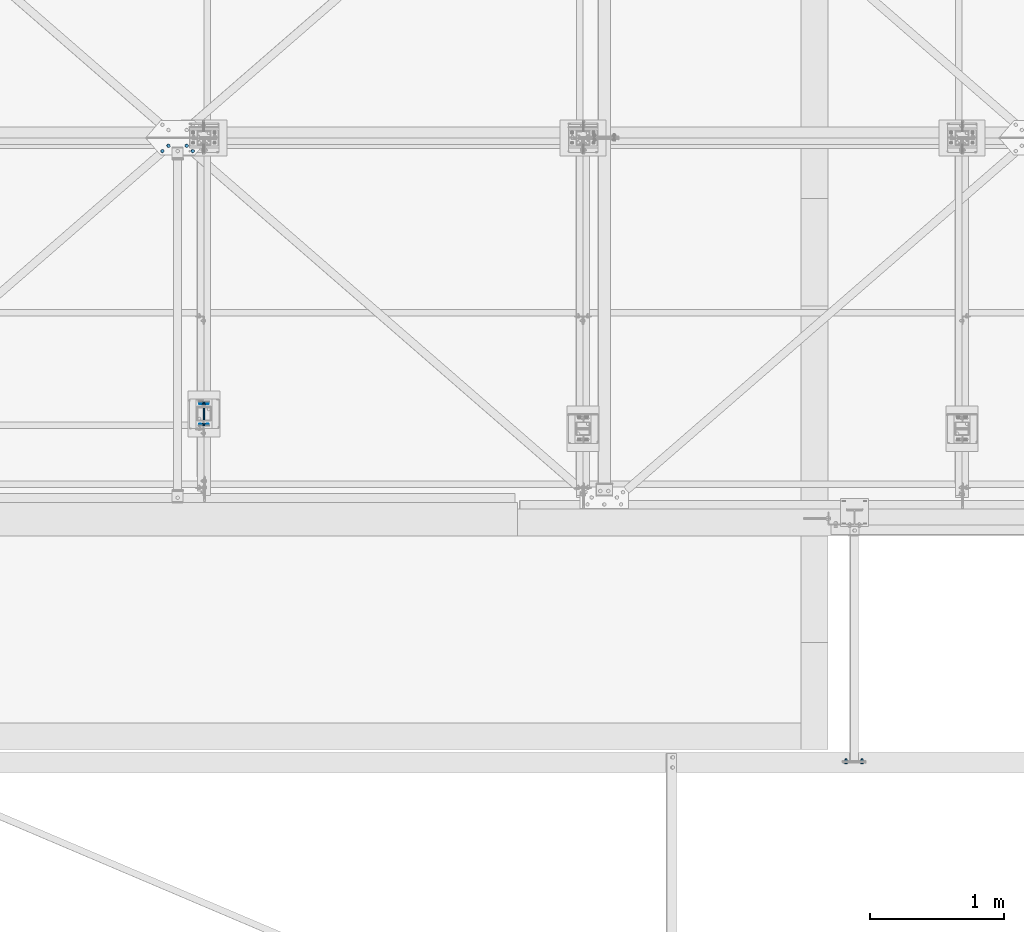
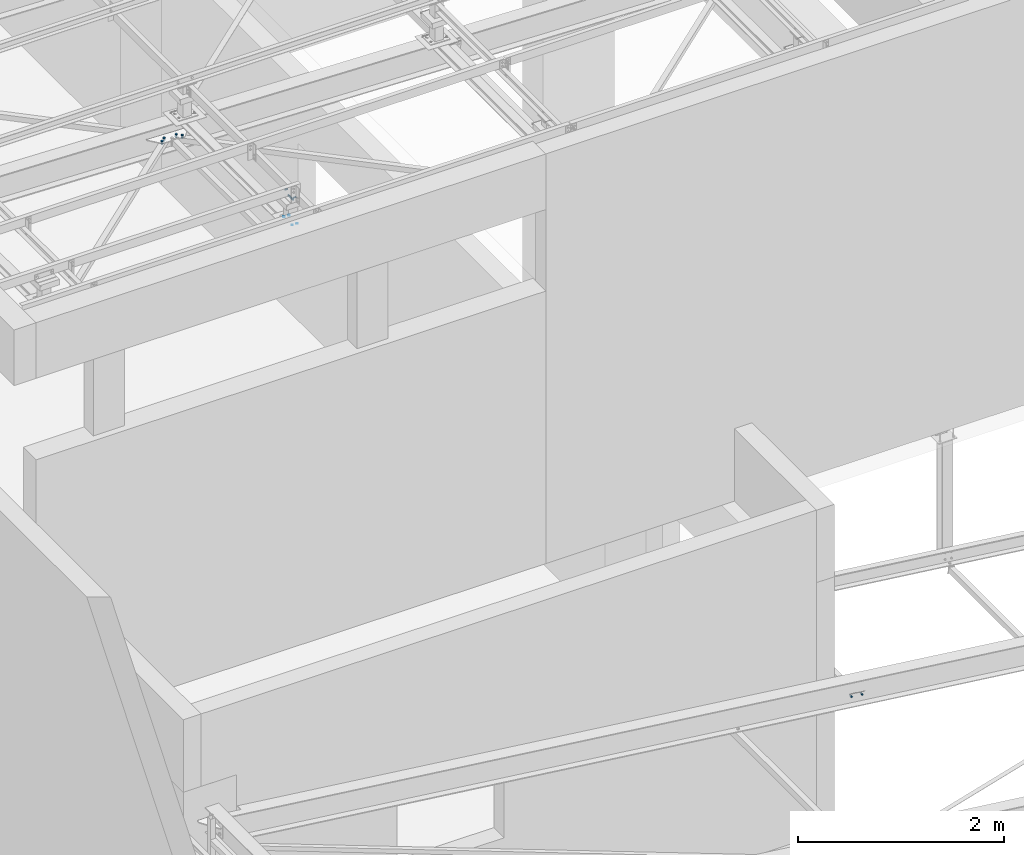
# One storey, part 224 of 3134: 6 mechanical fasteners, 5 elements without a shape of their own.
"""IFC2X3 building model written with IfcOpenShell, lengths in millimetres."""

import ifcopenshell
import ifcopenshell.guid

model = None  # the IFC model being written
_history = None  # IfcOwnerHistory: only IFC2X3 demands one
_inside = {}  # id of a spatial element -> (the spatial element, [elements in it])
_under = {}  # id of a project, library or spatial element -> (it, [spatial elements below it])
_declared = {}  # id of a project -> (the project, [libraries it declares])
_typed = {}  # id of a type object -> (the type object, [elements of that type])
_made_of = {}  # id of a material, layer set ... -> (it, [elements and type objects made of it])


def new_model(schema):
    """Start an empty IFC model of exactly this schema.

    Asked for "IFC4X3", IfcOpenShell would pick the latest addendum, in which some entities
    have other attributes; the version numbers below select the first issue.
    IFC2X3 requires an IfcOwnerHistory on every rooted entity: one is made here for all.
    """
    global model, _history
    if schema == "IFC4X3":
        model = ifcopenshell.file(schema_version=(4, 3, 0, 0))
    else:
        model = ifcopenshell.file(schema=schema)
    _inside.clear()
    _under.clear()
    _declared.clear()
    _typed.clear()
    _made_of.clear()
    _history = None
    if model.schema == "IFC2X3":
        org = make("IfcOrganization", Name="unknown")
        user = make(
            "IfcPersonAndOrganization",
            ThePerson=make("IfcPerson", FamilyName="unknown"),
            TheOrganization=org,
        )
        app = make(
            "IfcApplication",
            ApplicationDeveloper=org,
            Version="unknown",
            ApplicationFullName="unknown",
            ApplicationIdentifier="unknown",
        )
        _history = make(
            "IfcOwnerHistory",
            OwningUser=user,
            OwningApplication=app,
            ChangeAction="ADDED",
            CreationDate=0,
        )
    return model


def make(cls, **values):
    """One entity of the class cls with the attributes given. An attribute that is None is left unset."""
    return model.create_entity(
        cls, **{name: value for name, value in values.items() if value is not None}
    )


def rooted(cls, **values):
    """An entity with a GlobalId (a new one), such as an element, a storey or a relation."""
    return make(cls, GlobalId=ifcopenshell.guid.new(), OwnerHistory=_history, **values)


def si_unit(unit_type, name, prefix=None):
    """IfcSIUnit, for example si_unit("LENGTHUNIT", "METRE", prefix="MILLI")."""
    return make("IfcSIUnit", UnitType=unit_type, Prefix=prefix, Name=name)


def assignment(units):
    """IfcUnitAssignment: the units of a project."""
    return None if units is None else make("IfcUnitAssignment", Units=units)


def point(xyz):
    """IfcCartesianPoint."""
    return None if xyz is None else make("IfcCartesianPoint", Coordinates=xyz)


def direction(xyz):
    """IfcDirection."""
    return None if xyz is None else make("IfcDirection", DirectionRatios=xyz)


def frame(location, z_axis=None, x_axis=None):
    """IfcAxis2Placement3D, a coordinate frame: its origin and axes. An axis left out is left unset."""
    return make(
        "IfcAxis2Placement3D",
        Location=point(location),
        Axis=direction(z_axis),
        RefDirection=direction(x_axis),
    )


def origin_with_axes():
    """The frame at (0, 0, 0) with the z axis (0, 0, 1) and the x axis (1, 0, 0) written out."""
    return frame((0.0, 0.0, 0.0), z_axis=(0.0, 0.0, 1.0), x_axis=(1.0, 0.0, 0.0))


def place(relative_to, where):
    """IfcLocalPlacement: puts the frame where relative to a parent placement (None: the world)."""
    return make(
        "IfcLocalPlacement", PlacementRelTo=relative_to, RelativePlacement=where
    )


def context(
    kind, dimensions, precision=None, world=None, true_north=None, identifier=None
):
    """IfcGeometricRepresentationContext, for example the 3D "Model" context."""
    return make(
        "IfcGeometricRepresentationContext",
        ContextIdentifier=identifier,
        ContextType=kind,
        CoordinateSpaceDimension=dimensions,
        Precision=precision,
        WorldCoordinateSystem=world,
        TrueNorth=true_north,
    )


def subcontext(parent, identifier, kind, view, scale=None):
    """IfcGeometricRepresentationSubContext, for example "Body" below "Model"."""
    return make(
        "IfcGeometricRepresentationSubContext",
        ContextIdentifier=identifier,
        ContextType=kind,
        ParentContext=parent,
        TargetScale=scale,
        TargetView=view,
    )


def project(units=None, contexts=None):
    """IfcProject with its units and contexts."""
    return rooted(
        "IfcProject",
        Name="project",
        RepresentationContexts=contexts,
        UnitsInContext=assignment(units),
    )


def spatial(cls, under=None, at=None, **own):
    """A site, building, storey or space (cls), placed at a placement, below another one or the project."""
    s = rooted(cls, ObjectPlacement=at, **own)
    if under is not None:
        _under.setdefault(under.id(), (under, []))[1].append(s)
    return s


def faces_of(points, faces, orient=None, outer=None):
    """IfcFace entities. A face is a list of loops; a loop is a list of indices into points, from 0.

    orient and outer hold one flag for each loop. By default every Orientation is true, the
    first loop of a face is its IfcFaceOuterBound and the others are IfcFaceBound.
    """
    made = []
    for i, loops in enumerate(faces):
        bounds = []
        for j, loop in enumerate(loops):
            is_outer = j == 0 if outer is None else outer[i][j]
            bounds.append(
                make(
                    "IfcFaceOuterBound" if is_outer else "IfcFaceBound",
                    Bound=make("IfcPolyLoop", Polygon=[points[k] for k in loop]),
                    Orientation=True if orient is None else orient[i][j],
                )
            )
        made.append(make("IfcFace", Bounds=bounds))
    return made


def faceted_brep(points, faces, orient=None, outer=None, voids=None):
    """IfcFacetedBrep: a solid bounded by flat faces; with voids (closed shells), ...WithVoids."""
    shared = [point(p) for p in points]
    hull = make("IfcClosedShell", CfsFaces=faces_of(shared, faces, orient, outer))
    if voids is None:
        return make("IfcFacetedBrep", Outer=hull)
    return make(
        "IfcFacetedBrepWithVoids",
        Outer=hull,
        Voids=[
            make(cls, CfsFaces=faces_of(shared, fs, o, b)) for cls, fs, o, b in voids
        ],
    )


def shape(context_of_items, identifier, shape_type, items):
    """IfcShapeRepresentation: the items that make up one representation, for example the "Body"."""
    return make(
        "IfcShapeRepresentation",
        ContextOfItems=context_of_items,
        RepresentationIdentifier=identifier,
        RepresentationType=shape_type,
        Items=items,
    )


def source(mapping_origin, context_of_items, identifier, shape_type, items):
    """IfcRepresentationMap: a shape defined once, which mapped items show again and again."""
    return make(
        "IfcRepresentationMap",
        MappingOrigin=mapping_origin,
        MappedRepresentation=shape(context_of_items, identifier, shape_type, items),
    )


def transform(
    local_origin,
    x_axis=None,
    y_axis=None,
    z_axis=None,
    scale=None,
    scale2=None,
    scale3=None,
    uniform=True,
):
    """IfcCartesianTransformationOperator3D, or its non-uniform kind. x_axis, y_axis, z_axis: its Axis1, 2, 3."""
    if uniform:
        return make(
            "IfcCartesianTransformationOperator3D",
            Axis1=direction(x_axis),
            Axis2=direction(y_axis),
            LocalOrigin=point(local_origin),
            Scale=scale,
            Axis3=direction(z_axis),
        )
    return make(
        "IfcCartesianTransformationOperator3DnonUniform",
        Axis1=direction(x_axis),
        Axis2=direction(y_axis),
        LocalOrigin=point(local_origin),
        Scale=scale,
        Axis3=direction(z_axis),
        Scale2=scale2,
        Scale3=scale3,
    )


def mapped(mapping_source, mapping_target):
    """IfcMappedItem: shows the shape of a source again, moved by a transform."""
    return make(
        "IfcMappedItem", MappingSource=mapping_source, MappingTarget=mapping_target
    )


def material(Name=None, Category=None):
    """IfcMaterial."""
    return make("IfcMaterial", Name=Name, Category=Category)


def made_of(thing, what):
    """Note that an element or type object is made of a material, layer set ...; save() writes the relation."""
    if what is not None:
        _made_of.setdefault(what.id(), (what, []))[1].append(thing)
    return thing


def type_object(cls, material=None, **own):
    """A type object (cls), such as IfcWallType, which elements share."""
    return made_of(rooted(cls, **own), material)


def element(
    cls,
    number,
    at=None,
    inside=None,
    cuts=None,
    type_object=None,
    material=None,
    context=None,
    identifier="Body",
    shape_type=None,
    held_by="IfcProductDefinitionShape",
    body=None,
    shapes=None,
    **own,
):
    """One element of the class cls, such as IfcWall. Its Tag is "e" and its number.

    at: its placement. inside: the storey or other place that contains it. cuts: it is an
    opening in that element (IfcRelVoidsElement). A single representation is given by context,
    identifier, shape_type and body (its items); several are given by shapes. held_by: the class
    of the entity that holds the representations. save() writes the other relations.
    """
    e = rooted(cls, Tag="e%d" % number, ObjectPlacement=at, **own)
    if body is not None:
        shapes = [shape(context, identifier, shape_type, body)]
    if shapes is not None:
        e.Representation = make(held_by, Representations=shapes)
    if inside is not None:
        _inside.setdefault(inside.id(), (inside, []))[1].append(e)
    if cuts is not None:
        rooted(
            "IfcRelVoidsElement", RelatingBuildingElement=cuts, RelatedOpeningElement=e
        )
    if type_object is not None:
        _typed.setdefault(type_object.id(), (type_object, []))[1].append(e)
    return made_of(e, material)


def aggregate(whole, parts):
    """IfcRelAggregates: a whole, such as a stair, and the parts it consists of."""
    return rooted("IfcRelAggregates", RelatingObject=whole, RelatedObjects=parts)


def save(model, path):
    """Write the relations noted so far, then the file.

    IfcRelAggregates (storeys below a building ...), IfcRelContainedInSpatialStructure (elements
    in a storey), IfcRelDefinesByType, IfcRelAssociatesMaterial and IfcRelDeclares: one each for
    every whole, place, type object, material and project.
    """
    for whole, parts in _under.values():
        aggregate(whole, parts)
    for where, things in _inside.values():
        rooted(
            "IfcRelContainedInSpatialStructure",
            RelatedElements=things,
            RelatingStructure=where,
        )
    for kind, things in _typed.values():
        rooted("IfcRelDefinesByType", RelatedObjects=things, RelatingType=kind)
    for what, things in _made_of.values():
        rooted("IfcRelAssociatesMaterial", RelatedObjects=things, RelatingMaterial=what)
    for by, libraries in _declared.values():
        rooted("IfcRelDeclares", RelatingContext=by, RelatedDefinitions=libraries)
    model.write(path)


model = new_model("IFC2X3")

# Units and contexts
model_context = context("Model", 3, precision=1e-05, world=origin_with_axes())
body_context = subcontext(model_context, "Body", "Model", "MODEL_VIEW")
ifc_project = project(units=[si_unit("LENGTHUNIT", "METRE", prefix="MILLI"), si_unit("AREAUNIT", "SQUARE_METRE"), si_unit("VOLUMEUNIT", "CUBIC_METRE"), si_unit("MASSUNIT", "GRAM", prefix="KILO"), si_unit("TIMEUNIT", "SECOND"), si_unit("PLANEANGLEUNIT", "RADIAN"), si_unit("SOLIDANGLEUNIT", "STERADIAN"), si_unit("THERMODYNAMICTEMPERATUREUNIT", "DEGREE_CELSIUS"), si_unit("LUMINOUSINTENSITYUNIT", "LUMEN")], contexts=[model_context])

# Site, building, storey
site_placement = place(None, origin_with_axes())
site = spatial("IfcSite", under=ifc_project, at=site_placement, CompositionType="ELEMENT")
building_placement = place(site_placement, origin_with_axes())
building = spatial("IfcBuilding", under=site, at=building_placement, Name="Undefined", CompositionType="ELEMENT")
storey_placement = place(building_placement, origin_with_axes())
storey = spatial("IfcBuildingStorey", under=building, at=storey_placement, Name="Undefined", CompositionType="ELEMENT", Elevation=0.0)

# Assembly, mechanical fastener
assembly_1_placement = place(storey_placement, origin_with_axes())
assembly_1 = element("IfcElementAssembly", 1, at=assembly_1_placement, inside=storey, AssemblyPlace="NOTDEFINED", PredefinedType="RIGID_FRAME")
ifc_material = material(Name="8.8")
mechanical_fastener_type = type_object("IfcMechanicalFastenerType", Name="Bolt assembly")
shared_shape_1 = source(origin_with_axes(), body_context, "Body", "Brep", [
    faceted_brep([(10.9696551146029, -14.0999999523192, 0.0), (5.48482755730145, -14.0999999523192, 9.5), (-5.48482755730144, -14.0999999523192, 9.5), (-10.9696551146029, -14.0999999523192, 1.34339530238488e-15), (-5.48482755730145, -14.0999999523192, -9.5), (5.48482755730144, -14.0999999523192, -9.50000000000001), (5.48482755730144, -6.09999995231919, -9.50000000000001), (-5.48482755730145, -6.09999995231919, -9.5), (-10.9696551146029, -6.09999995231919, 1.34339530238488e-15), (-5.48482755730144, -6.09999995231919, 9.5), (5.48482755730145, -6.09999995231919, 9.5), (10.9696551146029, -6.09999995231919, 0.0), (6.0, -6.09999995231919, 0.0), (5.19615242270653, -6.09999995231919, 3.00000000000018), (2.99999999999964, -6.09999995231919, 5.19615242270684), (-6.21801588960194e-13, -6.09999995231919, 6.0), (-3.00000000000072, -6.09999995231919, 5.19615242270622), (-5.19615242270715, -6.09999995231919, 2.9999999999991), (-6.0, -6.09999995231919, -1.24360317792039e-12), (-5.19615242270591, -6.09999995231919, -3.00000000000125), (-2.99999999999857, -6.09999995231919, -5.19615242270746), (1.85874342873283e-12, -6.09999995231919, -6.0), (3.00000000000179, -6.09999995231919, -5.1961524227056), (5.19615242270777, -6.09999995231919, -2.99999999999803), (5.19615242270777, 23.9000000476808, -2.99999999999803), (3.00000000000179, 23.9000000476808, -5.1961524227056), (1.85874342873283e-12, 23.9000000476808, -6.0), (-2.99999999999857, 23.9000000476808, -5.19615242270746), (-5.19615242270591, 23.9000000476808, -3.00000000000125), (-6.0, 23.9000000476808, -1.24360317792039e-12), (-5.19615242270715, 23.9000000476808, 2.9999999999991), (-3.00000000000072, 23.9000000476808, 5.19615242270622), (-6.21801588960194e-13, 23.9000000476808, 6.0), (2.99999999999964, 23.9000000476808, 5.19615242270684), (5.19615242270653, 23.9000000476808, 3.00000000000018), (6.0, 23.9000000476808, 0.0), (10.9696551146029, 8.0, 0.0), (5.48482755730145, 8.0, 9.5), (-5.48482755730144, 8.0, 9.5), (-10.9696551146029, 8.0, 1.34339530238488e-15), (-5.48482755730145, 8.0, -9.5), (5.48482755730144, 8.0, -9.50000000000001), (5.48482755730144, 18.0, -9.50000000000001), (-5.48482755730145, 18.0, -9.5), (-10.9696551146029, 18.0, 1.34339530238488e-15), (-5.48482755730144, 18.0, 9.5), (5.48482755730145, 18.0, 9.5), (10.9696551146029, 18.0, 0.0)], [[[0, 1, 2, 3, 4, 5]], [[6, 7, 8, 9, 10, 11]], [[0, 11, 10, 1]], [[1, 10, 9, 2]], [[2, 9, 8, 3]], [[3, 8, 7, 4]], [[4, 7, 6, 5]], [[5, 6, 11, 0]], [[12, 13, 14, 15, 16, 17, 18, 19, 20, 21, 22, 23]], [[24, 25, 26, 27, 28, 29, 30, 31, 32, 33, 34, 35]], [[12, 35, 34, 13]], [[13, 34, 33, 14]], [[14, 33, 32, 15]], [[15, 32, 31, 16]], [[16, 31, 30, 17]], [[17, 30, 29, 18]], [[18, 29, 28, 19]], [[19, 28, 27, 20]], [[20, 27, 26, 21]], [[21, 26, 25, 22]], [[22, 25, 24, 23]], [[23, 24, 35, 12]], [[36, 37, 38, 39, 40, 41]], [[42, 43, 44, 45, 46, 47]], [[36, 47, 46, 37]], [[37, 46, 45, 38]], [[38, 45, 44, 39]], [[39, 44, 43, 40]], [[40, 43, 42, 41]], [[41, 42, 47, 36]]]),
    faceted_brep([(7.0, -6.0, 0.0), (6.06217782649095, -6.0, 3.50000000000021), (3.49999999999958, -6.0, 6.06217782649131), (-7.25435187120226e-13, -6.0, 7.0), (-3.50000000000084, -6.0, 6.06217782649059), (-6.06217782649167, -6.0, 3.49999999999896), (-7.0, -6.0, -1.45087037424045e-12), (-6.06217782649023, -6.0, -3.50000000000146), (-3.49999999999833, -6.0, -6.06217782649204), (2.1685340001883e-12, -6.0, -7.0), (3.50000000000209, -6.0, -6.06217782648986), (6.0621778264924, -6.0, -3.4999999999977), (6.0621778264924, 0.0999999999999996, -3.4999999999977), (3.50000000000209, 0.0999999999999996, -6.06217782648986), (2.1685340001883e-12, 0.0999999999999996, -7.0), (-3.49999999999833, 0.0999999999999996, -6.06217782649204), (-6.06217782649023, 0.0999999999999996, -3.50000000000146), (-7.0, 0.0999999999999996, -1.45087037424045e-12), (-6.06217782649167, 0.0999999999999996, 3.49999999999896), (-3.50000000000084, 0.0999999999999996, 6.06217782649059), (-7.25435187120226e-13, 0.0999999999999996, 7.0), (3.49999999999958, 0.0999999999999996, 6.06217782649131), (6.06217782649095, 0.0999999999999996, 3.50000000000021), (7.0, 0.0999999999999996, 0.0), (7.0, -0.1, 0.0), (6.06217782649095, -0.1, 3.50000000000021), (3.49999999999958, -0.1, 6.06217782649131), (-7.25435187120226e-13, -0.1, 7.0), (-3.50000000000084, -0.1, 6.06217782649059), (-6.06217782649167, -0.1, 3.49999999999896), (-7.0, -0.1, -1.45087037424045e-12), (-6.06217782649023, -0.1, -3.50000000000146), (-3.49999999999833, -0.1, -6.06217782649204), (2.1685340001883e-12, -0.1, -7.0), (3.50000000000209, -0.1, -6.06217782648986), (6.0621778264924, -0.1, -3.4999999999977), (6.0621778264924, 8.0000000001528, -3.4999999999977), (3.50000000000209, 8.0000000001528, -6.06217782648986), (2.1685340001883e-12, 8.0000000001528, -7.0), (-3.49999999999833, 8.0000000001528, -6.06217782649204), (-6.06217782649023, 8.0000000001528, -3.50000000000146), (-7.0, 8.0000000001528, -1.45087037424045e-12), (-6.06217782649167, 8.0000000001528, 3.49999999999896), (-3.50000000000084, 8.0000000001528, 6.06217782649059), (-7.25435187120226e-13, 8.0000000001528, 7.0), (3.49999999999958, 8.0000000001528, 6.06217782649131), (6.06217782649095, 8.0000000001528, 3.50000000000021), (7.0, 8.0000000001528, 0.0)], [[[0, 1, 2, 3, 4, 5, 6, 7, 8, 9, 10, 11]], [[12, 13, 14, 15, 16, 17, 18, 19, 20, 21, 22, 23]], [[0, 23, 22, 1]], [[1, 22, 21, 2]], [[2, 21, 20, 3]], [[3, 20, 19, 4]], [[4, 19, 18, 5]], [[5, 18, 17, 6]], [[6, 17, 16, 7]], [[7, 16, 15, 8]], [[8, 15, 14, 9]], [[9, 14, 13, 10]], [[10, 13, 12, 11]], [[11, 12, 23, 0]], [[24, 25, 26, 27, 28, 29, 30, 31, 32, 33, 34, 35]], [[36, 37, 38, 39, 40, 41, 42, 43, 44, 45, 46, 47]], [[24, 47, 46, 25]], [[25, 46, 45, 26]], [[26, 45, 44, 27]], [[27, 44, 43, 28]], [[28, 43, 42, 29]], [[29, 42, 41, 30]], [[30, 41, 40, 31]], [[31, 40, 39, 32]], [[32, 39, 38, 33]], [[33, 38, 37, 34]], [[34, 37, 36, 35]], [[35, 36, 47, 24]]]),
])
mechanical_fastener_1_placement = place(assembly_1_placement, frame((27981.1959388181, 48033.05, 4731.38796577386), z_axis=(0.121269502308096, 0.0, 0.992619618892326), x_axis=(0.992619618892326, 0.0, -0.121269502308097)))
mechanical_fastener_1 = element("IfcMechanicalFastener", 2, at=mechanical_fastener_1_placement, type_object=mechanical_fastener_type, material=ifc_material, Name="Bolt assembly", NominalDiameter=12.0, NominalLength=30.0, context=body_context, shape_type="MappedRepresentation", body=[
    mapped(shared_shape_1, transform((0.0, 0.0, 0.0))),
    mapped(shared_shape_1, transform((120.0, 0.0, 0.0))),
])
aggregate(assembly_1, [mechanical_fastener_1])

assembly_2_placement = place(storey_placement, origin_with_axes())
assembly_2 = element("IfcElementAssembly", 3, at=assembly_2_placement, inside=storey, AssemblyPlace="NOTDEFINED", PredefinedType="RIGID_FRAME")
shared_shape_2 = source(origin_with_axes(), body_context, "Body", "Brep", [
    faceted_brep([(7.0, 13.0000253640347, 0.0), (6.06217782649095, 13.0000253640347, 3.50000000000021), (3.49999999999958, 13.0000253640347, 6.06217782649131), (-7.25435187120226e-13, 13.0000253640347, 7.0), (-3.50000000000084, 13.0000253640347, 6.06217782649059), (-6.06217782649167, 13.0000253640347, 3.49999999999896), (-7.0, 13.0000253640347, -1.45087037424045e-12), (-6.06217782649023, 13.0000253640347, -3.50000000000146), (-3.49999999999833, 13.0000253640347, -6.06217782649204), (2.1685340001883e-12, 13.0000253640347, -7.0), (3.50000000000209, 13.0000253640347, -6.06217782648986), (6.0621778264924, 13.0000253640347, -3.4999999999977), (6.0621778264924, 15.0999999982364, -3.4999999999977), (3.50000000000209, 15.0999999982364, -6.06217782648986), (2.1685340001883e-12, 15.0999999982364, -7.0), (-3.49999999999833, 15.0999999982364, -6.06217782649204), (-6.06217782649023, 15.0999999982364, -3.50000000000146), (-7.0, 15.0999999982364, -1.45087037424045e-12), (-6.06217782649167, 15.0999999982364, 3.49999999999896), (-3.50000000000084, 15.0999999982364, 6.06217782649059), (-7.25435187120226e-13, 15.0999999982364, 7.0), (3.49999999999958, 15.0999999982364, 6.06217782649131), (6.06217782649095, 15.0999999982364, 3.50000000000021), (7.0, 15.0999999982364, 0.0)], [[[0, 1, 2, 3, 4, 5, 6, 7, 8, 9, 10, 11]], [[12, 13, 14, 15, 16, 17, 18, 19, 20, 21, 22, 23]], [[0, 23, 22, 1]], [[1, 22, 21, 2]], [[2, 21, 20, 3]], [[3, 20, 19, 4]], [[4, 19, 18, 5]], [[5, 18, 17, 6]], [[6, 17, 16, 7]], [[7, 16, 15, 8]], [[8, 15, 14, 9]], [[9, 14, 13, 10]], [[10, 13, 12, 11]], [[11, 12, 23, 0]]]),
])
mechanical_fastener_2_placement = place(assembly_2_placement, frame((23162.360203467, 50630.0016352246, 10468.0549309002), z_axis=(0.0, -1.0, 0.0), x_axis=(0.999519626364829, 0.0, -0.030992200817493)))
mechanical_fastener_2 = element("IfcMechanicalFastener", 4, at=mechanical_fastener_2_placement, type_object=mechanical_fastener_type, material=ifc_material, Name="Bolt assembly", NominalDiameter=12.0, NominalLength=2.0, context=body_context, shape_type="MappedRepresentation", body=[
    mapped(shared_shape_2, transform((0.0, 5.3114490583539e-10, 79.9999999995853))),
    mapped(shared_shape_2, transform((55.9999999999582, 4.54747350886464e-13, 80.0))),
    mapped(shared_shape_2, transform((0.0, -5.32963895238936e-10, -79.9999999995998))),
    mapped(shared_shape_2, transform((55.9999999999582, 4.54747350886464e-13, -80.0))),
])
aggregate(assembly_2, [mechanical_fastener_2])

# Assembly, mechanical fasteners
assembly_3_placement = place(storey_placement, origin_with_axes())
assembly_3 = element("IfcElementAssembly", 5, at=assembly_3_placement, inside=storey, AssemblyPlace="NOTDEFINED", PredefinedType="RIGID_FRAME")
shared_shape_3 = source(origin_with_axes(), body_context, "Body", "Brep", [
    faceted_brep([(9.0, -50.0, 0.0), (7.79422863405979, -50.0, 4.50000000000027), (4.49999999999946, -50.0, 7.79422863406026), (-9.3270238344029e-13, -50.0, 9.0), (-4.50000000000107, -50.0, 7.79422863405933), (-7.79422863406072, -50.0, 4.49999999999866), (-9.0, -50.0, -1.86540476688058e-12), (-7.79422863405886, -50.0, -4.50000000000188), (-4.49999999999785, -50.0, -7.79422863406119), (2.78811514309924e-12, -50.0, -9.0), (4.50000000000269, -50.0, -7.7942286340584), (7.79422863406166, -50.0, -4.49999999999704), (7.79422863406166, 50.1, -4.49999999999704), (4.50000000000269, 50.1, -7.7942286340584), (2.78811514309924e-12, 50.1, -9.0), (-4.49999999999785, 50.1, -7.79422863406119), (-7.79422863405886, 50.1, -4.50000000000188), (-9.0, 50.1, -1.86540476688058e-12), (-7.79422863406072, 50.1, 4.49999999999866), (-4.50000000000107, 50.1, 7.79422863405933), (-9.3270238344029e-13, 50.1, 9.0), (4.49999999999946, 50.1, 7.79422863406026), (7.79422863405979, 50.1, 4.50000000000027), (9.0, 50.1, 0.0)], [[[0, 1, 2, 3, 4, 5, 6, 7, 8, 9, 10, 11]], [[12, 13, 14, 15, 16, 17, 18, 19, 20, 21, 22, 23]], [[0, 23, 22, 1]], [[1, 22, 21, 2]], [[2, 21, 20, 3]], [[3, 20, 19, 4]], [[4, 19, 18, 5]], [[5, 18, 17, 6]], [[6, 17, 16, 7]], [[7, 16, 15, 8]], [[8, 15, 14, 9]], [[9, 14, 13, 10]], [[10, 13, 12, 11]], [[11, 12, 23, 0]]]),
])
mechanical_fastener_3_placement = place(assembly_3_placement, frame((23191.0, 50630.0, 10751.0), z_axis=(-1.0, 0.0, 0.0), x_axis=(0.0, 0.0, 1.0)))
mechanical_fastener_3 = element("IfcMechanicalFastener", 6, at=mechanical_fastener_3_placement, type_object=mechanical_fastener_type, material=ifc_material, Name="Bolt assembly", NominalDiameter=16.0, NominalLength=100.0, context=body_context, shape_type="MappedRepresentation", body=[
    mapped(shared_shape_3, transform((0.0, 0.0, 0.0))),
])
shared_shape_4 = source(origin_with_axes(), body_context, "Body", "Brep", [
    faceted_brep([(10.9696551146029, -12.0, 0.0), (5.48482755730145, -12.0, 9.5), (-5.48482755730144, -12.0, 9.5), (-10.9696551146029, -12.0, 1.34339530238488e-15), (-5.48482755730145, -12.0, -9.5), (5.48482755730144, -12.0, -9.50000000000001), (5.48482755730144, -4.0, -9.50000000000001), (-5.48482755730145, -4.0, -9.5), (-10.9696551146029, -4.0, 1.34339530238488e-15), (-5.48482755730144, -4.0, 9.5), (5.48482755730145, -4.0, 9.5), (10.9696551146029, -4.0, 0.0), (6.0, -4.0, 0.0), (5.19615242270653, -4.0, 3.00000000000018), (2.99999999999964, -4.0, 5.19615242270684), (-6.21801588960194e-13, -4.0, 6.0), (-3.00000000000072, -4.0, 5.19615242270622), (-5.19615242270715, -4.0, 2.9999999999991), (-6.0, -4.0, -1.24360317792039e-12), (-5.19615242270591, -4.0, -3.00000000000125), (-2.99999999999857, -4.0, -5.19615242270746), (1.85874342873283e-12, -4.0, -6.0), (3.00000000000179, -4.0, -5.1961524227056), (5.19615242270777, -4.0, -2.99999999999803), (5.19615242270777, 21.0, -2.99999999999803), (3.00000000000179, 21.0, -5.1961524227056), (1.85874342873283e-12, 21.0, -6.0), (-2.99999999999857, 21.0, -5.19615242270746), (-5.19615242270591, 21.0, -3.00000000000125), (-6.0, 21.0, -1.24360317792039e-12), (-5.19615242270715, 21.0, 2.9999999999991), (-3.00000000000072, 21.0, 5.19615242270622), (-6.21801588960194e-13, 21.0, 6.0), (2.99999999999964, 21.0, 5.19615242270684), (5.19615242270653, 21.0, 3.00000000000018), (6.0, 21.0, 0.0), (10.9696551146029, 6.00000000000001, 0.0), (5.48482755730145, 6.00000000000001, 9.5), (-5.48482755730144, 6.00000000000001, 9.5), (-10.9696551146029, 6.00000000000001, 1.34339530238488e-15), (-5.48482755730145, 6.00000000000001, -9.5), (5.48482755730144, 6.00000000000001, -9.50000000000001), (5.48482755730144, 16.0, -9.50000000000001), (-5.48482755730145, 16.0, -9.5), (-10.9696551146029, 16.0, 1.34339530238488e-15), (-5.48482755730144, 16.0, 9.5), (5.48482755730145, 16.0, 9.5), (10.9696551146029, 16.0, 0.0)], [[[0, 1, 2, 3, 4, 5]], [[6, 7, 8, 9, 10, 11]], [[0, 11, 10, 1]], [[1, 10, 9, 2]], [[2, 9, 8, 3]], [[3, 8, 7, 4]], [[4, 7, 6, 5]], [[5, 6, 11, 0]], [[12, 13, 14, 15, 16, 17, 18, 19, 20, 21, 22, 23]], [[24, 25, 26, 27, 28, 29, 30, 31, 32, 33, 34, 35]], [[12, 35, 34, 13]], [[13, 34, 33, 14]], [[14, 33, 32, 15]], [[15, 32, 31, 16]], [[16, 31, 30, 17]], [[17, 30, 29, 18]], [[18, 29, 28, 19]], [[19, 28, 27, 20]], [[20, 27, 26, 21]], [[21, 26, 25, 22]], [[22, 25, 24, 23]], [[23, 24, 35, 12]], [[36, 37, 38, 39, 40, 41]], [[42, 43, 44, 45, 46, 47]], [[36, 47, 46, 37]], [[37, 46, 45, 38]], [[38, 45, 44, 39]], [[39, 44, 43, 40]], [[40, 43, 42, 41]], [[41, 42, 47, 36]]]),
    faceted_brep([(7.0, -3.9, 0.0), (6.06217782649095, -3.9, 3.50000000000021), (3.49999999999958, -3.9, 6.06217782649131), (-7.25435187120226e-13, -3.9, 7.0), (-3.50000000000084, -3.9, 6.06217782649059), (-6.06217782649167, -3.9, 3.49999999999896), (-7.0, -3.9, -1.45087037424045e-12), (-6.06217782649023, -3.9, -3.50000000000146), (-3.49999999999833, -3.9, -6.06217782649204), (2.1685340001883e-12, -3.9, -7.0), (3.50000000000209, -3.9, -6.06217782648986), (6.0621778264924, -3.9, -3.4999999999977), (6.0621778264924, 0.0999999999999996, -3.4999999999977), (3.50000000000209, 0.0999999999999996, -6.06217782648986), (2.1685340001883e-12, 0.0999999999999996, -7.0), (-3.49999999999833, 0.0999999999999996, -6.06217782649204), (-6.06217782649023, 0.0999999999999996, -3.50000000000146), (-7.0, 0.0999999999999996, -1.45087037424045e-12), (-6.06217782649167, 0.0999999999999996, 3.49999999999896), (-3.50000000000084, 0.0999999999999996, 6.06217782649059), (-7.25435187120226e-13, 0.0999999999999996, 7.0), (3.49999999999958, 0.0999999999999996, 6.06217782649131), (6.06217782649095, 0.0999999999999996, 3.50000000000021), (7.0, 0.0999999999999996, 0.0), (7.0, -0.1, 0.0), (6.06217782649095, -0.1, 3.50000000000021), (3.49999999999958, -0.1, 6.06217782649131), (-7.25435187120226e-13, -0.1, 7.0), (-3.50000000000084, -0.1, 6.06217782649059), (-6.06217782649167, -0.1, 3.49999999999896), (-7.0, -0.1, -1.45087037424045e-12), (-6.06217782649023, -0.1, -3.50000000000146), (-3.49999999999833, -0.1, -6.06217782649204), (2.1685340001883e-12, -0.1, -7.0), (3.50000000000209, -0.1, -6.06217782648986), (6.0621778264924, -0.1, -3.4999999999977), (6.0621778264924, 6.00000000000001, -3.4999999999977), (3.50000000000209, 6.00000000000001, -6.06217782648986), (2.1685340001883e-12, 6.00000000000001, -7.0), (-3.49999999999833, 6.00000000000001, -6.06217782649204), (-6.06217782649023, 6.00000000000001, -3.50000000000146), (-7.0, 6.00000000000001, -1.45087037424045e-12), (-6.06217782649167, 6.00000000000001, 3.49999999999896), (-3.50000000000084, 6.00000000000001, 6.06217782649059), (-7.25435187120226e-13, 6.00000000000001, 7.0), (3.49999999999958, 6.00000000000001, 6.06217782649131), (6.06217782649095, 6.00000000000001, 3.50000000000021), (7.0, 6.00000000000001, 0.0)], [[[0, 1, 2, 3, 4, 5, 6, 7, 8, 9, 10, 11]], [[12, 13, 14, 15, 16, 17, 18, 19, 20, 21, 22, 23]], [[0, 23, 22, 1]], [[1, 22, 21, 2]], [[2, 21, 20, 3]], [[3, 20, 19, 4]], [[4, 19, 18, 5]], [[5, 18, 17, 6]], [[6, 17, 16, 7]], [[7, 16, 15, 8]], [[8, 15, 14, 9]], [[9, 14, 13, 10]], [[10, 13, 12, 11]], [[11, 12, 23, 0]], [[24, 25, 26, 27, 28, 29, 30, 31, 32, 33, 34, 35]], [[36, 37, 38, 39, 40, 41, 42, 43, 44, 45, 46, 47]], [[24, 47, 46, 25]], [[25, 46, 45, 26]], [[26, 45, 44, 27]], [[27, 44, 43, 28]], [[28, 43, 42, 29]], [[29, 42, 41, 30]], [[30, 41, 40, 31]], [[31, 40, 39, 32]], [[32, 39, 38, 33]], [[33, 38, 37, 34]], [[34, 37, 36, 35]], [[35, 36, 47, 24]]]),
])
mechanical_fastener_4_placement = place(assembly_3_placement, frame((23191.0, 50630.0, 10800.0), z_axis=(0.0, 1.0, 0.0), x_axis=(0.0, 0.0, -1.0)))
mechanical_fastener_4 = element("IfcMechanicalFastener", 7, at=mechanical_fastener_4_placement, type_object=mechanical_fastener_type, material=ifc_material, Name="Bolt assembly", NominalDiameter=12.0, NominalLength=25.0, context=body_context, shape_type="MappedRepresentation", body=[
    mapped(shared_shape_4, transform((0.0, -5.32963895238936e-10, -79.9999999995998))),
    mapped(shared_shape_4, transform((0.0, 5.3114490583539e-10, 79.9999999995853))),
])
aggregate(assembly_3, [mechanical_fastener_3, mechanical_fastener_4])

# Assembly, mechanical fastener
assembly_4_placement = place(storey_placement, origin_with_axes())
assembly_4 = element("IfcElementAssembly", 8, at=assembly_4_placement, inside=storey, AssemblyPlace="NOTDEFINED", PredefinedType="RIGID_FRAME")
shared_shape_5 = source(origin_with_axes(), body_context, "Body", "Brep", [
    faceted_brep([(13.856406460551, -14.0, 0.0), (6.92820323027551, -14.0, 12.0), (-6.92820323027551, -14.0, 12.0), (-13.856406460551, -14.0, 1.69692038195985e-15), (-6.92820323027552, -14.0, -12.0), (6.9282032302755, -14.0, -12.0), (6.9282032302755, -4.00000145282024, -12.0), (-6.92820323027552, -4.00000145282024, -12.0), (-13.856406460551, -4.00000145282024, 1.69692038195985e-15), (-6.92820323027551, -4.00000145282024, 12.0), (6.92820323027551, -4.00000145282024, 12.0), (13.856406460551, -4.00000145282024, 0.0), (8.0, -4.00000145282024, 0.0), (6.92820323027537, -4.00000145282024, 4.00000000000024), (3.99999999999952, -4.00000145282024, 6.92820323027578), (-8.29068785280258e-13, -4.00000145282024, 8.0), (-4.00000000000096, -4.00000145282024, 6.92820323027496), (-6.9282032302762, -4.00000145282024, 3.99999999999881), (-8.0, -4.00000145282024, -1.65813757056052e-12), (-6.92820323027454, -4.00000145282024, -4.00000000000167), (-3.99999999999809, -4.00000145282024, -6.92820323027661), (2.47832457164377e-12, -4.00000145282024, -8.0), (4.00000000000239, -4.00000145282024, -6.92820323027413), (6.92820323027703, -4.00000145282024, -3.99999999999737), (6.92820323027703, 31.0, -3.99999999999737), (4.00000000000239, 31.0, -6.92820323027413), (2.47832457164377e-12, 31.0, -8.0), (-3.99999999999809, 31.0, -6.92820323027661), (-6.92820323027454, 31.0, -4.00000000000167), (-8.0, 31.0, -1.65813757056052e-12), (-6.9282032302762, 31.0, 3.99999999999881), (-4.00000000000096, 31.0, 6.92820323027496), (-8.29068785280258e-13, 31.0, 8.0), (3.99999999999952, 31.0, 6.92820323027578), (6.92820323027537, 31.0, 4.00000000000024), (8.0, 31.0, 0.0), (13.856406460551, 9.99937456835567, 0.0), (6.92820323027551, 9.99937456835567, 12.0), (-6.92820323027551, 9.99937456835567, 12.0), (-13.856406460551, 9.99937456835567, 1.69692038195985e-15), (-6.92820323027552, 9.99937456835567, -12.0), (6.9282032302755, 9.99937456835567, -12.0), (6.9282032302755, 22.9993745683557, -12.0), (-6.92820323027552, 22.9993745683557, -12.0), (-13.856406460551, 22.9993745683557, 1.69692038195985e-15), (-6.92820323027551, 22.9993745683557, 12.0), (6.92820323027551, 22.9993745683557, 12.0), (13.856406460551, 22.9993745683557, 0.0)], [[[0, 1, 2, 3, 4, 5]], [[6, 7, 8, 9, 10, 11]], [[0, 11, 10, 1]], [[1, 10, 9, 2]], [[2, 9, 8, 3]], [[3, 8, 7, 4]], [[4, 7, 6, 5]], [[5, 6, 11, 0]], [[12, 13, 14, 15, 16, 17, 18, 19, 20, 21, 22, 23]], [[24, 25, 26, 27, 28, 29, 30, 31, 32, 33, 34, 35]], [[12, 35, 34, 13]], [[13, 34, 33, 14]], [[14, 33, 32, 15]], [[15, 32, 31, 16]], [[16, 31, 30, 17]], [[17, 30, 29, 18]], [[18, 29, 28, 19]], [[19, 28, 27, 20]], [[20, 27, 26, 21]], [[21, 26, 25, 22]], [[22, 25, 24, 23]], [[23, 24, 35, 12]], [[36, 37, 38, 39, 40, 41]], [[42, 43, 44, 45, 46, 47]], [[36, 47, 46, 37]], [[37, 46, 45, 38]], [[38, 45, 44, 39]], [[39, 44, 43, 40]], [[40, 43, 42, 41]], [[41, 42, 47, 36]]]),
    faceted_brep([(9.0, -3.9, 0.0), (7.79422863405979, -3.9, 4.50000000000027), (4.49999999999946, -3.9, 7.79422863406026), (-9.3270238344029e-13, -3.9, 9.0), (-4.50000000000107, -3.9, 7.79422863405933), (-7.79422863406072, -3.9, 4.49999999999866), (-9.0, -3.9, -1.86540476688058e-12), (-7.79422863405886, -3.9, -4.50000000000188), (-4.49999999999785, -3.9, -7.79422863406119), (2.78811514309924e-12, -3.9, -9.0), (4.50000000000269, -3.9, -7.7942286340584), (7.79422863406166, -3.9, -4.49999999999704), (7.79422863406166, 4.09999854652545, -4.49999999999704), (4.50000000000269, 4.09999854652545, -7.7942286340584), (2.78811514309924e-12, 4.09999854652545, -9.0), (-4.49999999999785, 4.09999854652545, -7.79422863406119), (-7.79422863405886, 4.09999854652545, -4.50000000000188), (-9.0, 4.09999854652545, -1.86540476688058e-12), (-7.79422863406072, 4.09999854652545, 4.49999999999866), (-4.50000000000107, 4.09999854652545, 7.79422863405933), (-9.3270238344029e-13, 4.09999854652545, 9.0), (4.49999999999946, 4.09999854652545, 7.79422863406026), (7.79422863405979, 4.09999854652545, 4.50000000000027), (9.0, 4.09999854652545, 0.0), (9.0, 3.89937456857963, 0.0), (7.79422863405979, 3.89937456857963, 4.50000000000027), (4.49999999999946, 3.89937456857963, 7.79422863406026), (-9.3270238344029e-13, 3.89937456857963, 9.0), (-4.50000000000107, 3.89937456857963, 7.79422863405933), (-7.79422863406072, 3.89937456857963, 4.49999999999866), (-9.0, 3.89937456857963, -1.86540476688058e-12), (-7.79422863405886, 3.89937456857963, -4.50000000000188), (-4.49999999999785, 3.89937456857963, -7.79422863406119), (2.78811514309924e-12, 3.89937456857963, -9.0), (4.50000000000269, 3.89937456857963, -7.7942286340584), (7.79422863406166, 3.89937456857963, -4.49999999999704), (7.79422863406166, 9.99937456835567, -4.49999999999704), (4.50000000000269, 9.99937456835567, -7.7942286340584), (2.78811514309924e-12, 9.99937456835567, -9.0), (-4.49999999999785, 9.99937456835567, -7.79422863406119), (-7.79422863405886, 9.99937456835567, -4.50000000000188), (-9.0, 9.99937456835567, -1.86540476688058e-12), (-7.79422863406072, 9.99937456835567, 4.49999999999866), (-4.50000000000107, 9.99937456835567, 7.79422863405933), (-9.3270238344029e-13, 9.99937456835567, 9.0), (4.49999999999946, 9.99937456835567, 7.79422863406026), (7.79422863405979, 9.99937456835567, 4.50000000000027), (9.0, 9.99937456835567, 0.0)], [[[0, 1, 2, 3, 4, 5, 6, 7, 8, 9, 10, 11]], [[12, 13, 14, 15, 16, 17, 18, 19, 20, 21, 22, 23]], [[0, 23, 22, 1]], [[1, 22, 21, 2]], [[2, 21, 20, 3]], [[3, 20, 19, 4]], [[4, 19, 18, 5]], [[5, 18, 17, 6]], [[6, 17, 16, 7]], [[7, 16, 15, 8]], [[8, 15, 14, 9]], [[9, 14, 13, 10]], [[10, 13, 12, 11]], [[11, 12, 23, 0]], [[24, 25, 26, 27, 28, 29, 30, 31, 32, 33, 34, 35]], [[36, 37, 38, 39, 40, 41, 42, 43, 44, 45, 46, 47]], [[24, 47, 46, 25]], [[25, 46, 45, 26]], [[26, 45, 44, 27]], [[27, 44, 43, 28]], [[28, 43, 42, 29]], [[29, 42, 41, 30]], [[30, 41, 40, 31]], [[31, 40, 39, 32]], [[32, 39, 38, 33]], [[33, 38, 37, 34]], [[34, 37, 36, 35]], [[35, 36, 47, 24]]]),
])
mechanical_fastener_5_placement = place(assembly_4_placement, frame((23106.9672243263, 52591.6643115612, 10322.7171545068), z_axis=(-0.655256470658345, -0.755133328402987, 0.0203129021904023), x_axis=(-0.754770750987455, 0.655571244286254, 0.0233978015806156)))
mechanical_fastener_5 = element("IfcMechanicalFastener", 9, at=mechanical_fastener_5_placement, type_object=mechanical_fastener_type, material=ifc_material, Name="Bolt assembly", NominalDiameter=16.0, NominalLength=35.0, context=body_context, shape_type="MappedRepresentation", body=[
    mapped(shared_shape_5, transform((0.0, 0.0, 0.0))),
    mapped(shared_shape_5, transform((59.9999999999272, 0.0, 5.40239852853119e-10))),
])
aggregate(assembly_4, [mechanical_fastener_5])

assembly_5_placement = place(storey_placement, origin_with_axes())
assembly_5 = element("IfcElementAssembly", 10, at=assembly_5_placement, inside=storey, AssemblyPlace="NOTDEFINED", PredefinedType="RIGID_FRAME")
shared_shape_6 = source(origin_with_axes(), body_context, "Body", "Brep", [
    faceted_brep([(13.856406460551, -14.0, 0.0), (6.92820323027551, -14.0, 12.0), (-6.92820323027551, -14.0, 12.0), (-13.856406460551, -14.0, 1.69692038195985e-15), (-6.92820323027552, -14.0, -12.0), (6.9282032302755, -14.0, -12.0), (6.9282032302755, -4.00000145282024, -12.0), (-6.92820323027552, -4.00000145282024, -12.0), (-13.856406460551, -4.00000145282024, 1.69692038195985e-15), (-6.92820323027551, -4.00000145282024, 12.0), (6.92820323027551, -4.00000145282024, 12.0), (13.856406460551, -4.00000145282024, 0.0), (8.0, -4.00000145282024, 0.0), (6.92820323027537, -4.00000145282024, 4.00000000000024), (3.99999999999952, -4.00000145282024, 6.92820323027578), (-8.29068785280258e-13, -4.00000145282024, 8.0), (-4.00000000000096, -4.00000145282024, 6.92820323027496), (-6.9282032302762, -4.00000145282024, 3.99999999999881), (-8.0, -4.00000145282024, -1.65813757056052e-12), (-6.92820323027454, -4.00000145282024, -4.00000000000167), (-3.99999999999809, -4.00000145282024, -6.92820323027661), (2.47832457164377e-12, -4.00000145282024, -8.0), (4.00000000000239, -4.00000145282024, -6.92820323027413), (6.92820323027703, -4.00000145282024, -3.99999999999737), (6.92820323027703, 31.0, -3.99999999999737), (4.00000000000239, 31.0, -6.92820323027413), (2.47832457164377e-12, 31.0, -8.0), (-3.99999999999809, 31.0, -6.92820323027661), (-6.92820323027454, 31.0, -4.00000000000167), (-8.0, 31.0, -1.65813757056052e-12), (-6.9282032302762, 31.0, 3.99999999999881), (-4.00000000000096, 31.0, 6.92820323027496), (-8.29068785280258e-13, 31.0, 8.0), (3.99999999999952, 31.0, 6.92820323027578), (6.92820323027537, 31.0, 4.00000000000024), (8.0, 31.0, 0.0), (13.856406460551, 9.99901118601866, 0.0), (6.92820323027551, 9.99901118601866, 12.0), (-6.92820323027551, 9.99901118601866, 12.0), (-13.856406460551, 9.99901118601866, 1.69692038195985e-15), (-6.92820323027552, 9.99901118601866, -12.0), (6.9282032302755, 9.99901118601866, -12.0), (6.9282032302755, 22.9990111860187, -12.0), (-6.92820323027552, 22.9990111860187, -12.0), (-13.856406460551, 22.9990111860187, 1.69692038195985e-15), (-6.92820323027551, 22.9990111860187, 12.0), (6.92820323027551, 22.9990111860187, 12.0), (13.856406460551, 22.9990111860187, 0.0)], [[[0, 1, 2, 3, 4, 5]], [[6, 7, 8, 9, 10, 11]], [[0, 11, 10, 1]], [[1, 10, 9, 2]], [[2, 9, 8, 3]], [[3, 8, 7, 4]], [[4, 7, 6, 5]], [[5, 6, 11, 0]], [[12, 13, 14, 15, 16, 17, 18, 19, 20, 21, 22, 23]], [[24, 25, 26, 27, 28, 29, 30, 31, 32, 33, 34, 35]], [[12, 35, 34, 13]], [[13, 34, 33, 14]], [[14, 33, 32, 15]], [[15, 32, 31, 16]], [[16, 31, 30, 17]], [[17, 30, 29, 18]], [[18, 29, 28, 19]], [[19, 28, 27, 20]], [[20, 27, 26, 21]], [[21, 26, 25, 22]], [[22, 25, 24, 23]], [[23, 24, 35, 12]], [[36, 37, 38, 39, 40, 41]], [[42, 43, 44, 45, 46, 47]], [[36, 47, 46, 37]], [[37, 46, 45, 38]], [[38, 45, 44, 39]], [[39, 44, 43, 40]], [[40, 43, 42, 41]], [[41, 42, 47, 36]]]),
    faceted_brep([(9.0, -3.9, 0.0), (7.79422863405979, -3.9, 4.50000000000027), (4.49999999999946, -3.9, 7.79422863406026), (-9.3270238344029e-13, -3.9, 9.0), (-4.50000000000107, -3.9, 7.79422863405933), (-7.79422863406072, -3.9, 4.49999999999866), (-9.0, -3.9, -1.86540476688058e-12), (-7.79422863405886, -3.9, -4.50000000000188), (-4.49999999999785, -3.9, -7.79422863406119), (2.78811514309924e-12, -3.9, -9.0), (4.50000000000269, -3.9, -7.7942286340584), (7.79422863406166, -3.9, -4.49999999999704), (7.79422863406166, 4.09999854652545, -4.49999999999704), (4.50000000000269, 4.09999854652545, -7.7942286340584), (2.78811514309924e-12, 4.09999854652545, -9.0), (-4.49999999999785, 4.09999854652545, -7.79422863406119), (-7.79422863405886, 4.09999854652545, -4.50000000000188), (-9.0, 4.09999854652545, -1.86540476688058e-12), (-7.79422863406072, 4.09999854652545, 4.49999999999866), (-4.50000000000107, 4.09999854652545, 7.79422863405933), (-9.3270238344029e-13, 4.09999854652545, 9.0), (4.49999999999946, 4.09999854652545, 7.79422863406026), (7.79422863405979, 4.09999854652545, 4.50000000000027), (9.0, 4.09999854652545, 0.0), (9.0, 3.8990111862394, 0.0), (7.79422863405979, 3.8990111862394, 4.50000000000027), (4.49999999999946, 3.8990111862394, 7.79422863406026), (-9.3270238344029e-13, 3.8990111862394, 9.0), (-4.50000000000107, 3.8990111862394, 7.79422863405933), (-7.79422863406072, 3.8990111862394, 4.49999999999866), (-9.0, 3.8990111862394, -1.86540476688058e-12), (-7.79422863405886, 3.8990111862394, -4.50000000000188), (-4.49999999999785, 3.8990111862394, -7.79422863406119), (2.78811514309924e-12, 3.8990111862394, -9.0), (4.50000000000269, 3.8990111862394, -7.7942286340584), (7.79422863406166, 3.8990111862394, -4.49999999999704), (7.79422863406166, 9.99901118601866, -4.49999999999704), (4.50000000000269, 9.99901118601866, -7.7942286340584), (2.78811514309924e-12, 9.99901118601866, -9.0), (-4.49999999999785, 9.99901118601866, -7.79422863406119), (-7.79422863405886, 9.99901118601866, -4.50000000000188), (-9.0, 9.99901118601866, -1.86540476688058e-12), (-7.79422863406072, 9.99901118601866, 4.49999999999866), (-4.50000000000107, 9.99901118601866, 7.79422863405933), (-9.3270238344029e-13, 9.99901118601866, 9.0), (4.49999999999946, 9.99901118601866, 7.79422863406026), (7.79422863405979, 9.99901118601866, 4.50000000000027), (9.0, 9.99901118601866, 0.0)], [[[0, 1, 2, 3, 4, 5, 6, 7, 8, 9, 10, 11]], [[12, 13, 14, 15, 16, 17, 18, 19, 20, 21, 22, 23]], [[0, 23, 22, 1]], [[1, 22, 21, 2]], [[2, 21, 20, 3]], [[3, 20, 19, 4]], [[4, 19, 18, 5]], [[5, 18, 17, 6]], [[6, 17, 16, 7]], [[7, 16, 15, 8]], [[8, 15, 14, 9]], [[9, 14, 13, 10]], [[10, 13, 12, 11]], [[11, 12, 23, 0]], [[24, 25, 26, 27, 28, 29, 30, 31, 32, 33, 34, 35]], [[36, 37, 38, 39, 40, 41, 42, 43, 44, 45, 46, 47]], [[24, 47, 46, 25]], [[25, 46, 45, 26]], [[26, 45, 44, 27]], [[27, 44, 43, 28]], [[28, 43, 42, 29]], [[29, 42, 41, 30]], [[30, 41, 40, 31]], [[31, 40, 39, 32]], [[32, 39, 38, 33]], [[33, 38, 37, 34]], [[34, 37, 36, 35]], [[35, 36, 47, 24]]]),
])
mechanical_fastener_6_placement = place(assembly_5_placement, frame((22880.5384802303, 52591.6729792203, 10329.7364455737), z_axis=(-0.655246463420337, 0.755142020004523, 0.0203126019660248), x_axis=(0.754779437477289, 0.655561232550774, -0.0233981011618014)))
mechanical_fastener_6 = element("IfcMechanicalFastener", 11, at=mechanical_fastener_6_placement, type_object=mechanical_fastener_type, material=ifc_material, Name="Bolt assembly", NominalDiameter=16.0, NominalLength=35.0, context=body_context, shape_type="MappedRepresentation", body=[
    mapped(shared_shape_6, transform((0.0, 0.0, 0.0))),
    mapped(shared_shape_6, transform((59.9999999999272, 0.0, 5.40239852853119e-10))),
])
aggregate(assembly_5, [mechanical_fastener_6])

save(model, "model.ifc")
